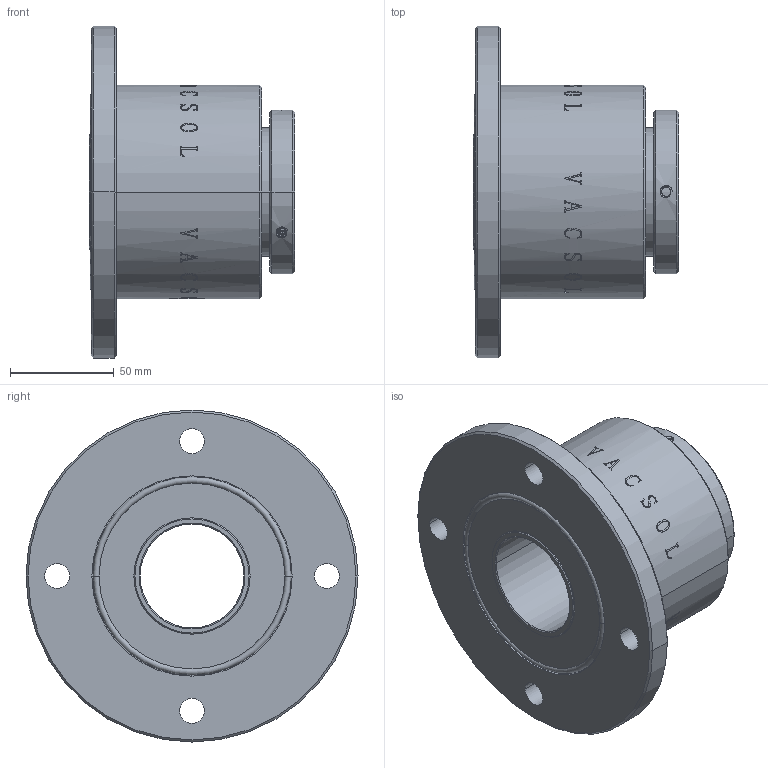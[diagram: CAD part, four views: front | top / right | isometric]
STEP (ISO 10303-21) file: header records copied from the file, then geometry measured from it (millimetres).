
FILE_DESCRIPTION (( 'STEP AP214' ), '1' );
FILE_NAME ('m50.STEP', '2010-08-26T12:41:17', ( 'user' ), ( '' ), 'SwSTEP 2.0', 'SolidWorks 2007', '' );
FILE_SCHEMA (( 'AUTOMOTIVE_DESIGN' ));
Length unit declared in the file: millimetre
Products named in the file (1): m50
Bounding box: 99 x 160 x 160 mm (x, y, z)
Volume: 694684 mm3; surface area: 97007.8 mm2
Topology: 2 solids, 2 shells, 443 faces, 1203 edges, 794 vertices
Faces by surface type: bspline 264, cylinder 97, plane 58, cone 20, torus 4
Entity records: 55188 total; most frequent: CARTESIAN_POINT 42991, ORIENTED_EDGE 2406, EDGE_CURVE 1203, B_SPLINE_CURVE_WITH_KNOTS 820, VERTEX_POINT 794, DIRECTION 783, EDGE_LOOP 491, ADVANCED_FACE 443
